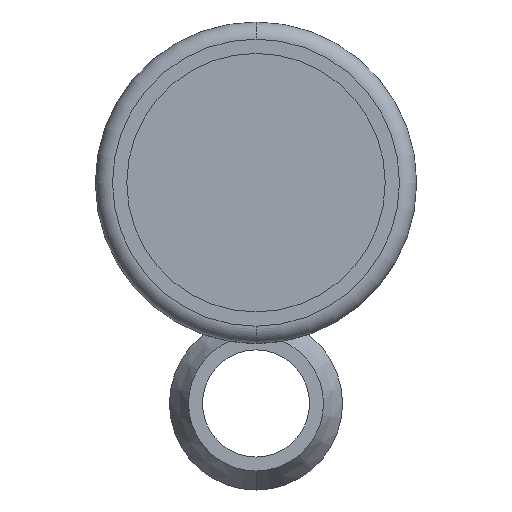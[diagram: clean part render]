
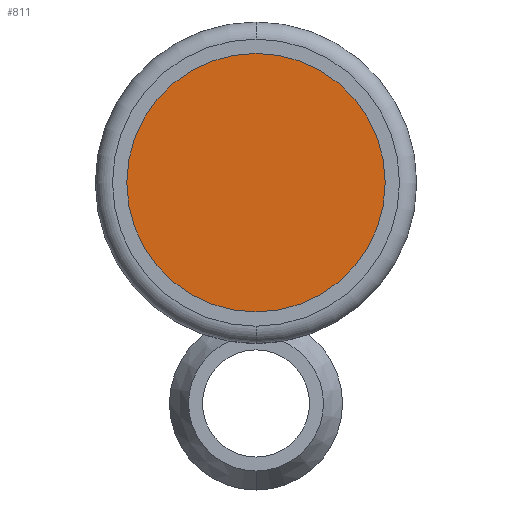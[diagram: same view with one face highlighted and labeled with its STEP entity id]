
A CAD part, front view. The second image highlights one B-rep face of the part: STEP entity #811.
In plain terms, the highlighted planar face has unit normal (0, -1, 0).
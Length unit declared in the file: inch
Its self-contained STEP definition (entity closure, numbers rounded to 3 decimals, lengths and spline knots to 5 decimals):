
#10 = DIRECTION ( 'NONE',  ( 0., -1., 0. ) ) ;
#50 = DIRECTION ( 'NONE',  ( 0., -1., 0. ) ) ;
#133 = CARTESIAN_POINT ( 'NONE',  ( 0., -0.565, -0.4525 ) ) ;
#421 = VERTEX_POINT ( 'NONE', #133 ) ;
#461 = DIRECTION ( 'NONE',  ( 0., 0., -1. ) ) ;
#516 = CARTESIAN_POINT ( 'NONE',  ( 0., -0.565, 0. ) ) ;
#568 = EDGE_CURVE ( 'NONE', #421, #651, #771, .T. ) ;
#651 = VERTEX_POINT ( 'NONE', #1095 ) ;
#760 = EDGE_LOOP ( 'NONE', ( #1376, #1154 ) ) ;
#761 = AXIS2_PLACEMENT_3D ( 'NONE', #843, #1196, #1394 ) ;
#771 = CIRCLE ( 'NONE', #943, 0.4525 ) ;
#782 = AXIS2_PLACEMENT_3D ( 'NONE', #1038, #10, #461 ) ;
#811 = ADVANCED_FACE ( 'NONE', ( #1433 ), #1051, .T. ) ;
#843 = CARTESIAN_POINT ( 'NONE',  ( 0., -0.565, 0. ) ) ;
#856 = DIRECTION ( 'NONE',  ( 0., 0., -1. ) ) ;
#943 = AXIS2_PLACEMENT_3D ( 'NONE', #516, #50, #856 ) ;
#1038 = CARTESIAN_POINT ( 'NONE',  ( 0., -0.565, 0. ) ) ;
#1051 = PLANE ( 'NONE',  #761 ) ;
#1095 = CARTESIAN_POINT ( 'NONE',  ( 0., -0.565, 0.4525 ) ) ;
#1154 = ORIENTED_EDGE ( 'NONE', *, *, #568, .T. ) ;
#1158 = EDGE_CURVE ( 'NONE', #651, #421, #1268, .T. ) ;
#1196 = DIRECTION ( 'NONE',  ( 0., -1., 0. ) ) ;
#1268 = CIRCLE ( 'NONE', #782, 0.4525 ) ;
#1376 = ORIENTED_EDGE ( 'NONE', *, *, #1158, .T. ) ;
#1394 = DIRECTION ( 'NONE',  ( 0., 0., -1. ) ) ;
#1433 = FACE_OUTER_BOUND ( 'NONE', #760, .T. ) ;
